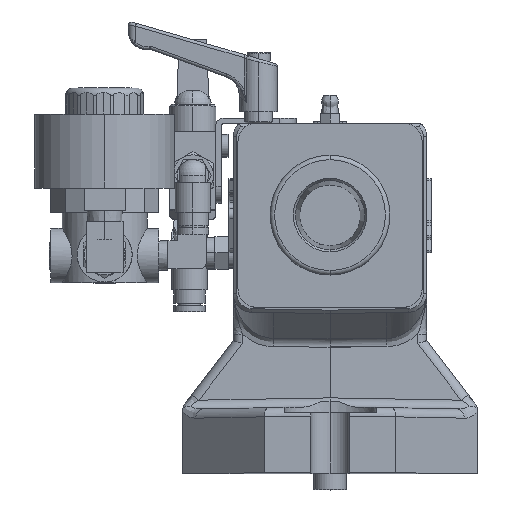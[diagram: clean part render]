
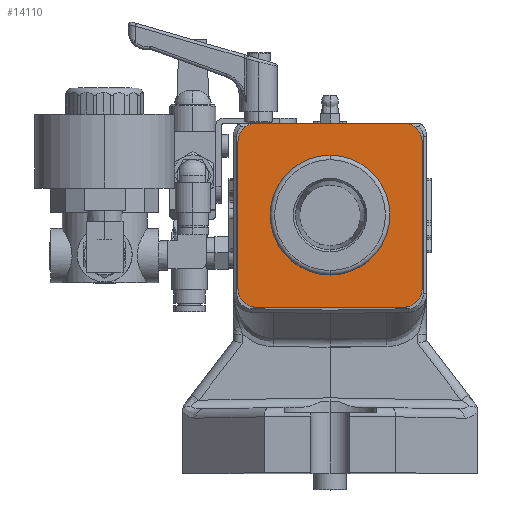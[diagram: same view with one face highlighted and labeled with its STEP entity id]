
A CAD part, top view. The second image highlights one B-rep face of the part: STEP entity #14110.
In plain terms, the highlighted planar face has unit normal (0, 0, 1).
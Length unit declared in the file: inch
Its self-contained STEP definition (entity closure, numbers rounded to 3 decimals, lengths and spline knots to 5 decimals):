
#636 = DIRECTION ( 'NONE',  ( 0., -1., 0. ) ) ;
#1638 = ORIENTED_EDGE ( 'NONE', *, *, #13591, .T. ) ;
#1796 = CIRCLE ( 'NONE', #20144, 0.8125 ) ;
#2996 = DIRECTION ( 'NONE',  ( 1., 0., 0. ) ) ;
#3541 = CARTESIAN_POINT ( 'NONE',  ( 0., -0.8125, 3.68 ) ) ;
#3768 = DIRECTION ( 'NONE',  ( 0., 0., 1. ) ) ;
#4390 = EDGE_CURVE ( 'Defeatured_11_242+Defeatured_11_245+Defeatured_11_239+Defeatured_11_238', #5919, #28834, #15306, .T. ) ;
#4679 = ORIENTED_EDGE ( 'NONE', *, *, #21300, .T. ) ;
#4957 = CARTESIAN_POINT ( 'NONE',  ( 1.25, -1., 3.68 ) ) ;
#5193 = AXIS2_PLACEMENT_3D ( 'NONE', #23502, #6946, #7347 ) ;
#5919 = VERTEX_POINT ( 'NONE', #36860 ) ;
#6033 = VERTEX_POINT ( 'NONE', #6299 ) ;
#6299 = CARTESIAN_POINT ( 'NONE',  ( -1.25, 1., 3.68 ) ) ;
#6612 = DIRECTION ( 'NONE',  ( 0., 0., 1. ) ) ;
#6946 = DIRECTION ( 'NONE',  ( 0., 0., -1. ) ) ;
#7347 = DIRECTION ( 'NONE',  ( -1., 0., 0. ) ) ;
#7393 = AXIS2_PLACEMENT_3D ( 'NONE', #38739, #16222, #10447 ) ;
#7902 = AXIS2_PLACEMENT_3D ( 'NONE', #21789, #3768, #12785 ) ;
#8014 = EDGE_LOOP ( 'NONE', ( #1638, #14759, #31364, #13550, #22522, #9541, #4679, #35460 ) ) ;
#8382 = DIRECTION ( 'NONE',  ( -1., 0., 0. ) ) ;
#8449 = CIRCLE ( 'NONE', #29359, 0.25 ) ;
#9541 = ORIENTED_EDGE ( 'NONE', *, *, #33892, .T. ) ;
#9689 = CARTESIAN_POINT ( 'NONE',  ( 1., 1., 3.68 ) ) ;
#9800 = CIRCLE ( 'NONE', #11081, 0.25 ) ;
#10221 = FACE_OUTER_BOUND ( 'NONE', #8014, .T. ) ;
#10447 = DIRECTION ( 'NONE',  ( -1., 0., 0. ) ) ;
#10514 = CARTESIAN_POINT ( 'NONE',  ( 1., -1.25, 3.68 ) ) ;
#10864 = VERTEX_POINT ( 'NONE', #4957 ) ;
#11081 = AXIS2_PLACEMENT_3D ( 'NONE', #13494, #28649, #28450 ) ;
#11250 = CARTESIAN_POINT ( 'NONE',  ( 1.25, -1.25, 3.68 ) ) ;
#11320 = VERTEX_POINT ( 'NONE', #32354 ) ;
#11807 = EDGE_CURVE ( 'Defeatured_11_249+Defeatured_11_242+Defeatured_11_242+Defeatured_11_242', #14534, #23503, #1796, .T. ) ;
#11919 = VERTEX_POINT ( 'NONE', #16850 ) ;
#12785 = DIRECTION ( 'NONE',  ( -1., 0., 0. ) ) ;
#13494 = CARTESIAN_POINT ( 'NONE',  ( 1., -1., 3.68 ) ) ;
#13550 = ORIENTED_EDGE ( 'NONE', *, *, #24033, .T. ) ;
#13591 = EDGE_CURVE ( 'Defeatured_11_242+Defeatured_11_243+Defeatured_11_237+Defeatured_11_240', #11320, #18134, #36470, .T. ) ;
#14110 = ADVANCED_FACE ( 'Defeatured_11_242', ( #23113, #10221 ), #29245, .F. ) ;
#14534 = VERTEX_POINT ( 'NONE', #29001 ) ;
#14549 = EDGE_CURVE ( 'Defeatured_11_242+Defeatured_11_240+Defeatured_11_243+Defeatured_11_246', #18134, #6033, #8449, .T. ) ;
#14759 = ORIENTED_EDGE ( 'NONE', *, *, #14549, .T. ) ;
#15306 = LINE ( 'NONE', #40320, #27937 ) ;
#15653 = DIRECTION ( 'NONE',  ( 0., 0., 1. ) ) ;
#16073 = LINE ( 'NONE', #11250, #23611 ) ;
#16222 = DIRECTION ( 'NONE',  ( 0., 0., 1. ) ) ;
#16258 = CARTESIAN_POINT ( 'NONE',  ( -1.25, -1.25, 3.68 ) ) ;
#16850 = CARTESIAN_POINT ( 'NONE',  ( 1.25, 1., 3.68 ) ) ;
#17798 = CARTESIAN_POINT ( 'NONE',  ( -1.25, 1.25, 3.68 ) ) ;
#18134 = VERTEX_POINT ( 'NONE', #37583 ) ;
#18304 = VECTOR ( 'NONE', #8382, 39.37008 ) ;
#18893 = DIRECTION ( 'NONE',  ( -1., 0., 0. ) ) ;
#19307 = DIRECTION ( 'NONE',  ( 0., 1., 0. ) ) ;
#19446 = AXIS2_PLACEMENT_3D ( 'NONE', #9689, #15653, #34682 ) ;
#20144 = AXIS2_PLACEMENT_3D ( 'NONE', #25055, #6612, #18893 ) ;
#21300 = EDGE_CURVE ( 'Defeatured_11_242+Defeatured_11_244+Defeatured_11_238+Defeatured_11_237', #10864, #11919, #16073, .T. ) ;
#21754 = DIRECTION ( 'NONE',  ( 0., 0., 1. ) ) ;
#21789 = CARTESIAN_POINT ( 'NONE',  ( 0., 0., 3.68 ) ) ;
#22144 = EDGE_LOOP ( 'NONE', ( #29931, #31263 ) ) ;
#22522 = ORIENTED_EDGE ( 'NONE', *, *, #4390, .T. ) ;
#23113 = FACE_BOUND ( 'NONE', #22144, .T. ) ;
#23361 = CIRCLE ( 'NONE', #19446, 0.25 ) ;
#23502 = CARTESIAN_POINT ( 'NONE',  ( -1.25, 1.25, 3.68 ) ) ;
#23503 = VERTEX_POINT ( 'NONE', #3541 ) ;
#23611 = VECTOR ( 'NONE', #19307, 39.37008 ) ;
#24033 = EDGE_CURVE ( 'Defeatured_11_242+Defeatured_11_239+Defeatured_11_246+Defeatured_11_245', #30434, #5919, #29595, .T. ) ;
#25055 = CARTESIAN_POINT ( 'NONE',  ( 0., 0., 3.68 ) ) ;
#27501 = CARTESIAN_POINT ( 'NONE',  ( -1., 1., 3.68 ) ) ;
#27726 = VECTOR ( 'NONE', #636, 39.37008 ) ;
#27937 = VECTOR ( 'NONE', #2996, 39.37008 ) ;
#28101 = LINE ( 'NONE', #16258, #27726 ) ;
#28155 = CARTESIAN_POINT ( 'NONE',  ( -1.25, -1., 3.68 ) ) ;
#28450 = DIRECTION ( 'NONE',  ( -1., 0., 0. ) ) ;
#28649 = DIRECTION ( 'NONE',  ( 0., 0., 1. ) ) ;
#28834 = VERTEX_POINT ( 'NONE', #10514 ) ;
#29001 = CARTESIAN_POINT ( 'NONE',  ( 0., 0.8125, 3.68 ) ) ;
#29245 = PLANE ( 'NONE',  #5193 ) ;
#29359 = AXIS2_PLACEMENT_3D ( 'NONE', #27501, #21754, #34059 ) ;
#29595 = CIRCLE ( 'NONE', #7393, 0.25 ) ;
#29931 = ORIENTED_EDGE ( 'NONE', *, *, #11807, .F. ) ;
#30434 = VERTEX_POINT ( 'NONE', #28155 ) ;
#31263 = ORIENTED_EDGE ( 'NONE', *, *, #36465, .F. ) ;
#31364 = ORIENTED_EDGE ( 'NONE', *, *, #39235, .T. ) ;
#31505 = EDGE_CURVE ( 'Defeatured_11_242+Defeatured_11_237+Defeatured_11_244+Defeatured_11_243', #11919, #11320, #23361, .T. ) ;
#32354 = CARTESIAN_POINT ( 'NONE',  ( 1., 1.25, 3.68 ) ) ;
#33892 = EDGE_CURVE ( 'Defeatured_11_242+Defeatured_11_238+Defeatured_11_245+Defeatured_11_244', #28834, #10864, #9800, .T. ) ;
#34059 = DIRECTION ( 'NONE',  ( -1., 0., 0. ) ) ;
#34682 = DIRECTION ( 'NONE',  ( -1., 0., 0. ) ) ;
#35460 = ORIENTED_EDGE ( 'NONE', *, *, #31505, .T. ) ;
#36049 = CIRCLE ( 'NONE', #7902, 0.8125 ) ;
#36465 = EDGE_CURVE ( 'Defeatured_11_249+Defeatured_11_242+Defeatured_11_242+Defeatured_11_242', #23503, #14534, #36049, .T. ) ;
#36470 = LINE ( 'NONE', #17798, #18304 ) ;
#36860 = CARTESIAN_POINT ( 'NONE',  ( -1., -1.25, 3.68 ) ) ;
#37583 = CARTESIAN_POINT ( 'NONE',  ( -1., 1.25, 3.68 ) ) ;
#38739 = CARTESIAN_POINT ( 'NONE',  ( -1., -1., 3.68 ) ) ;
#39235 = EDGE_CURVE ( 'Defeatured_11_242+Defeatured_11_246+Defeatured_11_240+Defeatured_11_239', #6033, #30434, #28101, .T. ) ;
#40320 = CARTESIAN_POINT ( 'NONE',  ( -1.25, -1.25, 3.68 ) ) ;
